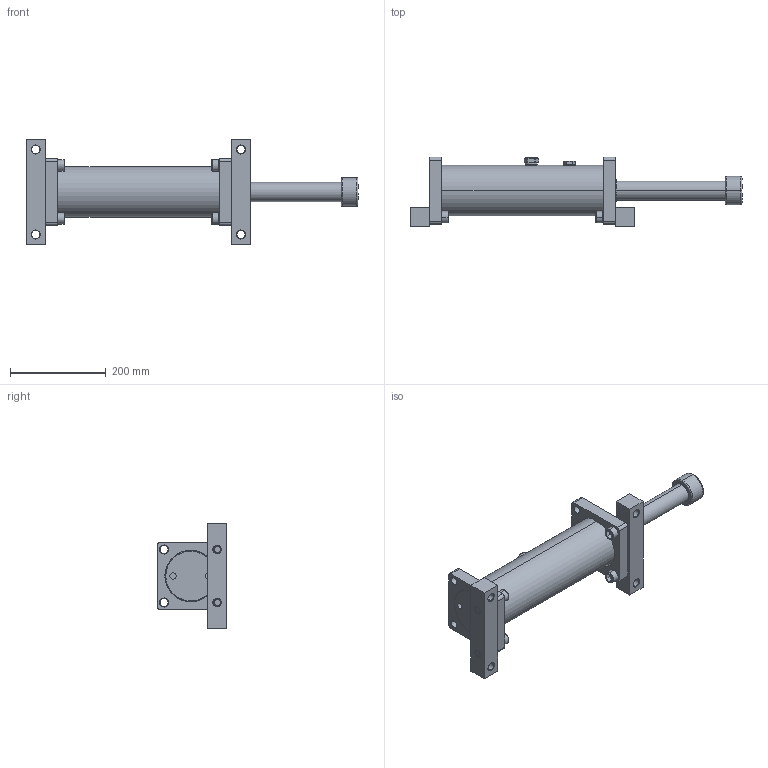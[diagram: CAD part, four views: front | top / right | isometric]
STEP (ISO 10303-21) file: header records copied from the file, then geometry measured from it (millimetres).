
FILE_DESCRIPTION (( 'STEP AP214' ), '1' );
FILE_NAME ('LDD2.0X8.STEP', '2019-01-16T05:57:02', ( 'user' ), ( 'Microsoft' ), 'SwSTEP 2.0', 'SolidWorks 2016', '' );
FILE_SCHEMA (( 'AUTOMOTIVE_DESIGN' ));
Length unit declared in the file: inch
Products named in the file (1): LDD2.0X8
Bounding box: 695 x 145.5 x 220 mm (x, y, z)
Surface area: 377505.2 mm2 (no closed solid volume)
Topology: 0 solids, 25 shells, 269 faces, 706 edges, 470 vertices
Faces by surface type: plane 99, cylinder 82, cone 58, bspline 30
Entity records: 14327 total; most frequent: CARTESIAN_POINT 7754, DIRECTION 1379, ORIENTED_EDGE 1265, EDGE_CURVE 706, AXIS2_PLACEMENT_3D 538, VERTEX_POINT 470, EDGE_LOOP 328, LINE 303
